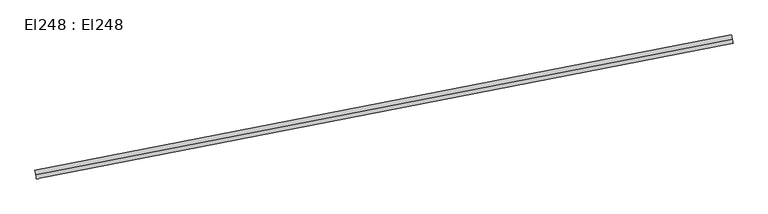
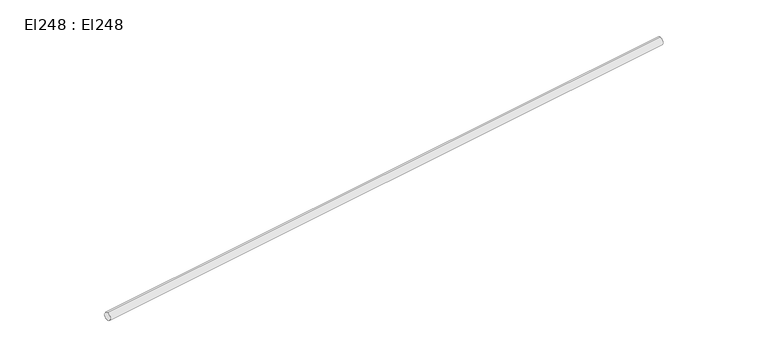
"""IFC4 building model written with IfcOpenShell, lengths in millimetres: cable carrier segment geometry, El248 : El248."""

import ifcopenshell
import ifcopenshell.guid

model = None  # the IFC model being written
_history = None  # IfcOwnerHistory: only IFC2X3 demands one
_inside = {}  # id of a spatial element -> (the spatial element, [elements in it])
_under = {}  # id of a project, library or spatial element -> (it, [spatial elements below it])
_declared = {}  # id of a project -> (the project, [libraries it declares])
_typed = {}  # id of a type object -> (the type object, [elements of that type])
_made_of = {}  # id of a material, layer set ... -> (it, [elements and type objects made of it])


def new_model(schema):
    """Start an empty IFC model of exactly this schema.

    Asked for "IFC4X3", IfcOpenShell would pick the latest addendum, in which some entities
    have other attributes; the version numbers below select the first issue.
    IFC2X3 requires an IfcOwnerHistory on every rooted entity: one is made here for all.
    """
    global model, _history
    if schema == "IFC4X3":
        model = ifcopenshell.file(schema_version=(4, 3, 0, 0))
    else:
        model = ifcopenshell.file(schema=schema)
    _inside.clear()
    _under.clear()
    _declared.clear()
    _typed.clear()
    _made_of.clear()
    _history = None
    if model.schema == "IFC2X3":
        org = make("IfcOrganization", Name="unknown")
        user = make(
            "IfcPersonAndOrganization",
            ThePerson=make("IfcPerson", FamilyName="unknown"),
            TheOrganization=org,
        )
        app = make(
            "IfcApplication",
            ApplicationDeveloper=org,
            Version="unknown",
            ApplicationFullName="unknown",
            ApplicationIdentifier="unknown",
        )
        _history = make(
            "IfcOwnerHistory",
            OwningUser=user,
            OwningApplication=app,
            ChangeAction="ADDED",
            CreationDate=0,
        )
    return model


def make(cls, **values):
    """One entity of the class cls with the attributes given. An attribute that is None is left unset."""
    return model.create_entity(
        cls, **{name: value for name, value in values.items() if value is not None}
    )


def rooted(cls, **values):
    """An entity with a GlobalId (a new one), such as an element, a storey or a relation."""
    return make(cls, GlobalId=ifcopenshell.guid.new(), OwnerHistory=_history, **values)


def si_unit(unit_type, name, prefix=None):
    """IfcSIUnit, for example si_unit("LENGTHUNIT", "METRE", prefix="MILLI")."""
    return make("IfcSIUnit", UnitType=unit_type, Prefix=prefix, Name=name)


def assignment(units):
    """IfcUnitAssignment: the units of a project."""
    return None if units is None else make("IfcUnitAssignment", Units=units)


def point(xyz):
    """IfcCartesianPoint."""
    return None if xyz is None else make("IfcCartesianPoint", Coordinates=xyz)


def direction(xyz):
    """IfcDirection."""
    return None if xyz is None else make("IfcDirection", DirectionRatios=xyz)


def frame(location, z_axis=None, x_axis=None):
    """IfcAxis2Placement3D, a coordinate frame: its origin and axes. An axis left out is left unset."""
    return make(
        "IfcAxis2Placement3D",
        Location=point(location),
        Axis=direction(z_axis),
        RefDirection=direction(x_axis),
    )


def frame_2d(location, x_axis=None):
    """IfcAxis2Placement2D, a coordinate frame in the plane: its origin and x axis."""
    return make(
        "IfcAxis2Placement2D", Location=point(location), RefDirection=direction(x_axis)
    )


def origin():
    """The frame at (0, 0, 0) with its axes left unset."""
    return frame((0.0, 0.0, 0.0))


def place(relative_to, where):
    """IfcLocalPlacement: puts the frame where relative to a parent placement (None: the world)."""
    return make(
        "IfcLocalPlacement", PlacementRelTo=relative_to, RelativePlacement=where
    )


def context(
    kind, dimensions, precision=None, world=None, true_north=None, identifier=None
):
    """IfcGeometricRepresentationContext, for example the 3D "Model" context."""
    return make(
        "IfcGeometricRepresentationContext",
        ContextIdentifier=identifier,
        ContextType=kind,
        CoordinateSpaceDimension=dimensions,
        Precision=precision,
        WorldCoordinateSystem=world,
        TrueNorth=true_north,
    )


def project(units=None, contexts=None):
    """IfcProject with its units and contexts."""
    return rooted(
        "IfcProject",
        Name="project",
        RepresentationContexts=contexts,
        UnitsInContext=assignment(units),
    )


def spatial(cls, under=None, at=None, **own):
    """A site, building, storey or space (cls), placed at a placement, below another one or the project."""
    s = rooted(cls, ObjectPlacement=at, **own)
    if under is not None:
        _under.setdefault(under.id(), (under, []))[1].append(s)
    return s


def circle_curve(where, radius):
    """IfcCircle in the frame where."""
    return make("IfcCircle", Position=where, Radius=radius)


def trimmed(basis, trim1, trim2, sense, master):
    """IfcTrimmedCurve: the piece of a basis curve between two trims."""
    return make(
        "IfcTrimmedCurve",
        BasisCurve=basis,
        Trim1=trim1,
        Trim2=trim2,
        SenseAgreement=sense,
        MasterRepresentation=master,
    )


def segment(curve, same_sense, transition):
    """IfcCompositeCurveSegment."""
    return make(
        "IfcCompositeCurveSegment",
        Transition=transition,
        SameSense=same_sense,
        ParentCurve=curve,
    )


def composite_curve(segments, self_intersect=None):
    """IfcCompositeCurve: segments joined end to end."""
    return make("IfcCompositeCurve", Segments=segments, SelfIntersect=self_intersect)


def outline(outer, holes=None, kind="AREA"):
    """IfcArbitraryClosedProfileDef: a profile drawn as a closed curve; with holes, ...WithVoids."""
    if holes is None:
        return make("IfcArbitraryClosedProfileDef", ProfileType=kind, OuterCurve=outer)
    return make(
        "IfcArbitraryProfileDefWithVoids",
        ProfileType=kind,
        OuterCurve=outer,
        InnerCurves=holes,
    )


def extrude(swept, where, along, depth):
    """IfcExtrudedAreaSolid: the profile swept, set in the frame where, extruded along a direction by depth."""
    return make(
        "IfcExtrudedAreaSolid",
        SweptArea=swept,
        Position=where,
        ExtrudedDirection=direction(along),
        Depth=depth,
    )


def shape(context_of_items, identifier, shape_type, items):
    """IfcShapeRepresentation: the items that make up one representation, for example the "Body"."""
    return make(
        "IfcShapeRepresentation",
        ContextOfItems=context_of_items,
        RepresentationIdentifier=identifier,
        RepresentationType=shape_type,
        Items=items,
    )


def source(mapping_origin, context_of_items, identifier, shape_type, items):
    """IfcRepresentationMap: a shape defined once, which mapped items show again and again."""
    return make(
        "IfcRepresentationMap",
        MappingOrigin=mapping_origin,
        MappedRepresentation=shape(context_of_items, identifier, shape_type, items),
    )


def transform(
    local_origin,
    x_axis=None,
    y_axis=None,
    z_axis=None,
    scale=None,
    scale2=None,
    scale3=None,
    uniform=True,
):
    """IfcCartesianTransformationOperator3D, or its non-uniform kind. x_axis, y_axis, z_axis: its Axis1, 2, 3."""
    if uniform:
        return make(
            "IfcCartesianTransformationOperator3D",
            Axis1=direction(x_axis),
            Axis2=direction(y_axis),
            LocalOrigin=point(local_origin),
            Scale=scale,
            Axis3=direction(z_axis),
        )
    return make(
        "IfcCartesianTransformationOperator3DnonUniform",
        Axis1=direction(x_axis),
        Axis2=direction(y_axis),
        LocalOrigin=point(local_origin),
        Scale=scale,
        Axis3=direction(z_axis),
        Scale2=scale2,
        Scale3=scale3,
    )


def mapped(mapping_source, mapping_target):
    """IfcMappedItem: shows the shape of a source again, moved by a transform."""
    return make(
        "IfcMappedItem", MappingSource=mapping_source, MappingTarget=mapping_target
    )


def made_of(thing, what):
    """Note that an element or type object is made of a material, layer set ...; save() writes the relation."""
    if what is not None:
        _made_of.setdefault(what.id(), (what, []))[1].append(thing)
    return thing


def element(
    cls,
    number,
    at=None,
    inside=None,
    cuts=None,
    type_object=None,
    material=None,
    context=None,
    identifier="Body",
    shape_type=None,
    held_by="IfcProductDefinitionShape",
    body=None,
    shapes=None,
    **own,
):
    """One element of the class cls, such as IfcWall. Its Tag is "e" and its number.

    at: its placement. inside: the storey or other place that contains it. cuts: it is an
    opening in that element (IfcRelVoidsElement). A single representation is given by context,
    identifier, shape_type and body (its items); several are given by shapes. held_by: the class
    of the entity that holds the representations. save() writes the other relations.
    """
    e = rooted(cls, Tag="e%d" % number, ObjectPlacement=at, **own)
    if body is not None:
        shapes = [shape(context, identifier, shape_type, body)]
    if shapes is not None:
        e.Representation = make(held_by, Representations=shapes)
    if inside is not None:
        _inside.setdefault(inside.id(), (inside, []))[1].append(e)
    if cuts is not None:
        rooted(
            "IfcRelVoidsElement", RelatingBuildingElement=cuts, RelatedOpeningElement=e
        )
    if type_object is not None:
        _typed.setdefault(type_object.id(), (type_object, []))[1].append(e)
    return made_of(e, material)


def aggregate(whole, parts):
    """IfcRelAggregates: a whole, such as a stair, and the parts it consists of."""
    return rooted("IfcRelAggregates", RelatingObject=whole, RelatedObjects=parts)


def save(model, path):
    """Write the relations noted so far, then the file.

    IfcRelAggregates (storeys below a building ...), IfcRelContainedInSpatialStructure (elements
    in a storey), IfcRelDefinesByType, IfcRelAssociatesMaterial and IfcRelDeclares: one each for
    every whole, place, type object, material and project.
    """
    for whole, parts in _under.values():
        aggregate(whole, parts)
    for where, things in _inside.values():
        rooted(
            "IfcRelContainedInSpatialStructure",
            RelatedElements=things,
            RelatingStructure=where,
        )
    for kind, things in _typed.values():
        rooted("IfcRelDefinesByType", RelatedObjects=things, RelatingType=kind)
    for what, things in _made_of.values():
        rooted("IfcRelAssociatesMaterial", RelatedObjects=things, RelatingMaterial=what)
    for by, libraries in _declared.values():
        rooted("IfcRelDeclares", RelatingContext=by, RelatedDefinitions=libraries)
    model.write(path)


def el248_el248_d4260399(model_context):
    return source(origin(), model_context, "Body", "SweptSolid", [
        extrude(outline(composite_curve([segment(trimmed(circle_curve(frame_2d((0.0, -12.0)), 12.0), [point((0.0, -24.0))], [point((0.0, 0.0))], False, "CARTESIAN"), True, "CONTINUOUS"), segment(trimmed(circle_curve(frame_2d((0.0, -12.0)), 12.0), [point((0.0, 0.0))], [point((0.0, -24.0))], False, "CARTESIAN"), True, "CONTINUOUS")], self_intersect=False)), frame((7650.004, 25105.475, 2962.0), z_axis=(0.9816151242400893, 0.19087102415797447, 0.0), x_axis=(-0.19087102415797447, 0.9816151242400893, 0.0)), (0.0, 0.0, 1.0), 1961.8),
    ])


if __name__ == "__main__":
    model = new_model("IFC4")
    model_context = context("Model", 3, world=origin())
    ifc_project = project(units=[si_unit("LENGTHUNIT", "METRE", prefix="MILLI")], contexts=[model_context])
    site = spatial("IfcSite", under=ifc_project)
    building = spatial("IfcBuilding", under=site)
    placement = place(None, origin())
    el248_el248_shape = el248_el248_d4260399(model_context)
    element("IfcCableCarrierSegment", 1, ObjectType="El248 : El248", at=placement, inside=building, context=model_context, shape_type="MappedRepresentation", body=[
        mapped(el248_el248_shape, transform((0.0, 0.0, 0.0), x_axis=(1.0, 0.0, 0.0), y_axis=(0.0, 1.0, 0.0), z_axis=(0.0, 0.0, 1.0))),
    ])
    save(model, "model.ifc")
